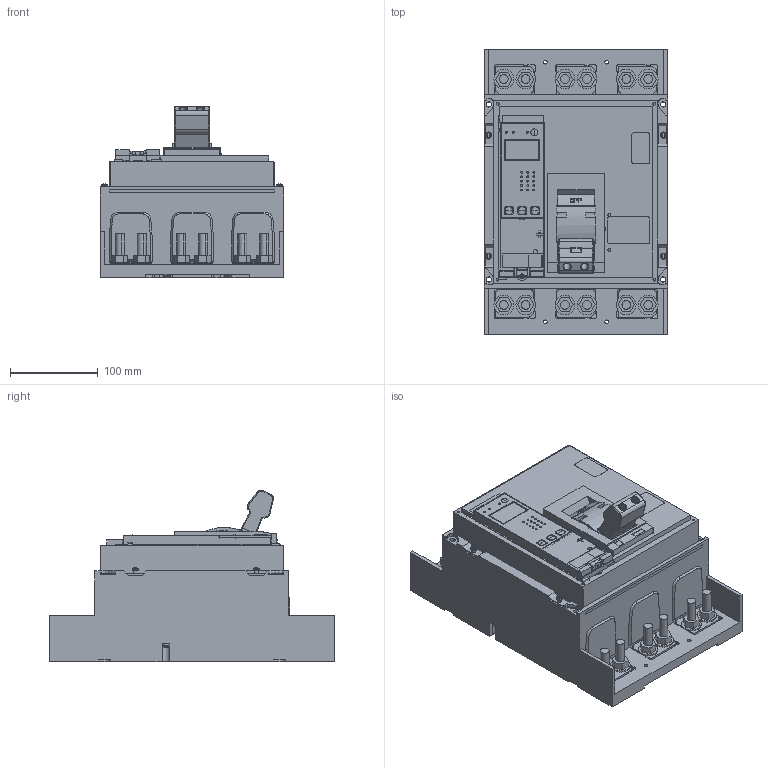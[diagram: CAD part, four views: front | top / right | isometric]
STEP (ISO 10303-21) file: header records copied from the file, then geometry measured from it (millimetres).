
FILE_DESCRIPTION((''),'2;1');
FILE_NAME('1649238902747_ASM','2022-04-06T15:25:25',('SESA621925'),('Schneider-Electric'),'CREO PARAMETRIC BY PTC INC, 2019471','CREO PARAMETRIC BY PTC INC, 2019471','');
FILE_SCHEMA(('AP242_MANAGED_MODEL_BASED_3D_ENGINEERING_MIM_LF { 1 0 10303 442 1 1 4 }'));
Products named in the file (12): EMPTYNODE_1649238902792_ASM; C063N320FM; C063N320FM-3D_ASM; COVER-ASSY-C063N320FM_C_1; COVER-ASSY-C063N320FM-3D_ASM; HANDLE-ASSY-C063N320FM; HANDLE-ASSY-C063N320FM-3D_ASM; 35069; 0444320800_C; 35069_ASM; 35069-3D_ASM; 1649238902747_ASM
Assembly tree (11 placements, depth 4):
  1649238902747_ASM
    EMPTYNODE_1649238902792_ASM
    C063N320FM-3D_ASM
      C063N320FM
    COVER-ASSY-C063N320FM-3D_ASM
      COVER-ASSY-C063N320FM_C_1
    HANDLE-ASSY-C063N320FM-3D_ASM
      HANDLE-ASSY-C063N320FM
    35069-3D_ASM
      35069_ASM
        35069
        0444320800_C
Bounding box: 210 x 326.53 x 196.18 mm (x, y, z)
Volume: 5439863.4 mm3; surface area: 557188 mm2
Topology: 11 solids, 13 shells, 2483 faces, 6811 edges, 4518 vertices
Faces by surface type: plane 1763, cylinder 586, bspline 42, torus 38, extrusion 26, cone 20, sphere 8
Entity records: 114621 total; most frequent: CARTESIAN_POINT 17257, ORIENTED_EDGE 13542, DIRECTION 12897, PRESENTATION_STYLE_ASSIGNMENT 7793, STYLED_ITEM 6840, CURVE_STYLE 6814, EDGE_CURVE 6771, VECTOR 5129
